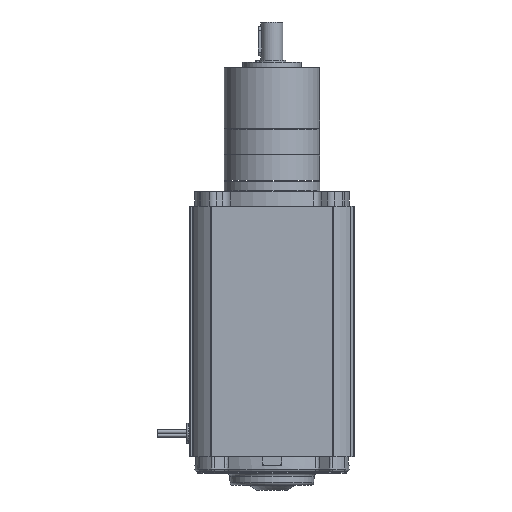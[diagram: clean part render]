
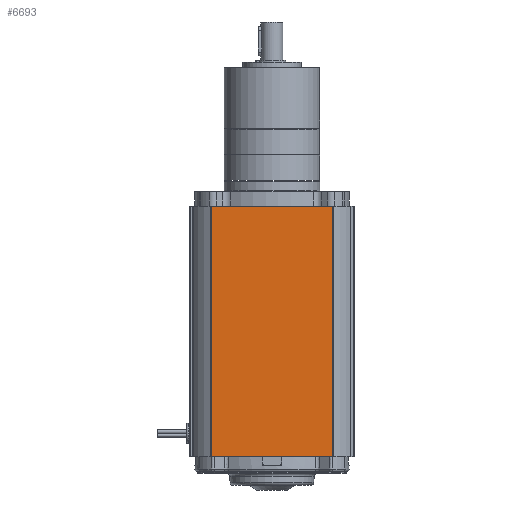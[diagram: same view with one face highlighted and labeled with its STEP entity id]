
A CAD part, left-side view. The second image highlights one B-rep face of the part: STEP entity #6693.
In plain terms, the highlighted planar face has unit normal (-1, 0, 0).
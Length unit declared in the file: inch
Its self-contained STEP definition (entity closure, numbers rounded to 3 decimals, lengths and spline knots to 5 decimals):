
#1547 = LINE ( 'NONE', #12643, #25862 ) ;
#3006 = DIRECTION ( 'NONE',  ( 0., 0., -1. ) ) ;
#5861 = FACE_OUTER_BOUND ( 'NONE', #25266, .T. ) ;
#6013 = ORIENTED_EDGE ( 'NONE', *, *, #35675, .F. ) ;
#6693 = ADVANCED_FACE ( 'NONE', ( #5861 ), #17436, .T. ) ;
#6970 = VECTOR ( 'NONE', #11252, 39.37008 ) ;
#8126 = VERTEX_POINT ( 'NONE', #18526 ) ;
#9399 = EDGE_CURVE ( 'NONE', #25939, #31811, #12097, .T. ) ;
#9831 = EDGE_CURVE ( 'NONE', #25939, #13525, #12011, .T. ) ;
#9944 = EDGE_CURVE ( 'NONE', #8126, #13525, #1547, .T. ) ;
#10172 = ORIENTED_EDGE ( 'NONE', *, *, #9831, .F. ) ;
#11182 = CARTESIAN_POINT ( 'NONE',  ( -1.7765, -1.325, -5.549 ) ) ;
#11252 = DIRECTION ( 'NONE',  ( 0., -1., 0. ) ) ;
#11731 = CARTESIAN_POINT ( 'NONE',  ( -1.7765, -1.305, -5.395 ) ) ;
#11945 = CARTESIAN_POINT ( 'NONE',  ( -1.7765, -1.305, -5.395 ) ) ;
#12011 = LINE ( 'NONE', #11945, #36121 ) ;
#12097 = LINE ( 'NONE', #33669, #27895 ) ;
#12643 = CARTESIAN_POINT ( 'NONE',  ( -1.7765, 1.305, -5.549 ) ) ;
#13525 = VERTEX_POINT ( 'NONE', #25267 ) ;
#14380 = DIRECTION ( 'NONE',  ( 0., 0., 1. ) ) ;
#14587 = CARTESIAN_POINT ( 'NONE',  ( -1.7765, -1.325, 0. ) ) ;
#14835 = DIRECTION ( 'NONE',  ( 0., 0., 1. ) ) ;
#17436 = PLANE ( 'NONE',  #32608 ) ;
#18454 = DIRECTION ( 'NONE',  ( 0., 1., 0. ) ) ;
#18526 = CARTESIAN_POINT ( 'NONE',  ( -1.7765, 1.305, 0. ) ) ;
#20902 = CARTESIAN_POINT ( 'NONE',  ( -1.7765, -1.305, 0. ) ) ;
#22795 = ORIENTED_EDGE ( 'NONE', *, *, #9944, .T. ) ;
#23861 = LINE ( 'NONE', #14587, #6970 ) ;
#25266 = EDGE_LOOP ( 'NONE', ( #10172, #41050, #6013, #22795 ) ) ;
#25267 = CARTESIAN_POINT ( 'NONE',  ( -1.7765, 1.305, -5.395 ) ) ;
#25862 = VECTOR ( 'NONE', #3006, 39.37008 ) ;
#25939 = VERTEX_POINT ( 'NONE', #11731 ) ;
#27895 = VECTOR ( 'NONE', #14835, 39.37008 ) ;
#31811 = VERTEX_POINT ( 'NONE', #20902 ) ;
#32608 = AXIS2_PLACEMENT_3D ( 'NONE', #11182, #33212, #14380 ) ;
#33212 = DIRECTION ( 'NONE',  ( -1., 0., 0. ) ) ;
#33669 = CARTESIAN_POINT ( 'NONE',  ( -1.7765, -1.305, -5.549 ) ) ;
#35675 = EDGE_CURVE ( 'NONE', #8126, #31811, #23861, .T. ) ;
#36121 = VECTOR ( 'NONE', #18454, 39.37008 ) ;
#41050 = ORIENTED_EDGE ( 'NONE', *, *, #9399, .T. ) ;
